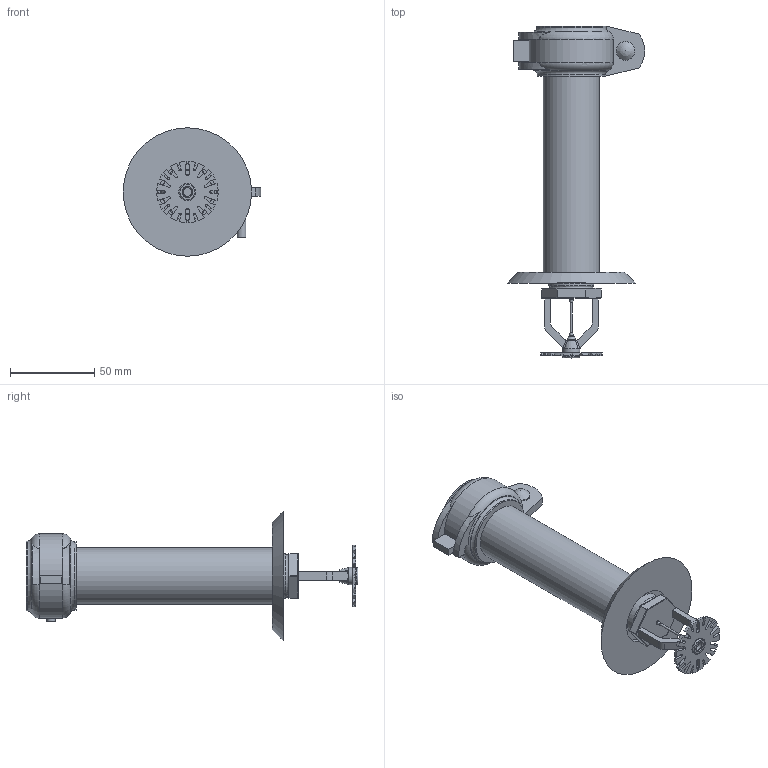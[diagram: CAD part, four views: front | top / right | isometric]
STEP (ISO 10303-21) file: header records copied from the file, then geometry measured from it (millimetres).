
FILE_DESCRIPTION(/* description */ ('VIC SPRINKLER V3613 K5.6 INTERMEDIATE DRY PENDENT STANDARD RESPONSE w/V9 (IGS)'),/* implementation_level */ '2;1');
FILE_NAME(/* name */ 'C:\Users\Public\Documents\Victaulic.Temp\A607\Victaulic_FP-Sprinkler_V3613_INT_DRY_SR_Pendent_V9 (IGS)_1 (25).stp',/* time_stamp */ '2024-09-24T08:12:06+02:00',/* author */ ('vjadhav'),/* organization */ ('Victaulic'),/* preprocessor_version */ 'ST-DEVELOPER v18',/* originating_system */ 'Autodesk Inventor 2020',/* authorisation */ '');
FILE_SCHEMA (('AUTOMOTIVE_DESIGN { 1 0 10303 214 3 1 1 }'));
Length unit declared in the file: inch
Products named in the file (3): V3613_INT-01.0; V3613_INT-01.0_1; V9-01.0x01.0
Assembly tree (2 placements, depth 2):
  V3613_INT-01.0
    V3613_INT-01.0_1
    V9-01.0x01.0
Bounding box: 81.66 x 197.04 x 76.2 mm (x, y, z)
Volume: 90080.8 mm3; surface area: 56173.2 mm2
Topology: 2 solids, 2 shells, 294 faces, 807 edges, 528 vertices
Faces by surface type: plane 143, cylinder 107, sphere 12, torus 11, bspline 11, cone 10
Full cylindrical faces by diameter (mm): 1.27 x1, 5.08 x3, 6.35 x1, 10.16 x2, 11.112 x1, 20.93 x1, 26.645 x2, 26.67 x1, 30.861 x1, 33.401 x5, 36.703 x1, 37.465 x1, 45.974 x2
Entity records: 10263 total; most frequent: CARTESIAN_POINT 2167, DIRECTION 1664, ORIENTED_EDGE 1602, EDGE_CURVE 801, AXIS2_PLACEMENT_3D 616, VERTEX_POINT 528, LINE 432, VECTOR 432
